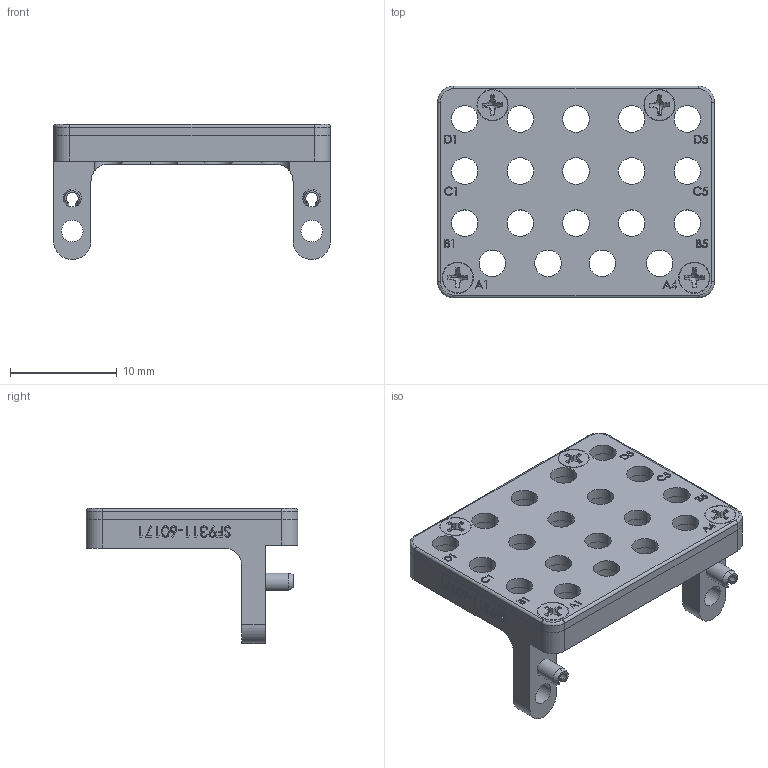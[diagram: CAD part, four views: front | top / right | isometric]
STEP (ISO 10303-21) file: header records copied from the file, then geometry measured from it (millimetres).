
FILE_DESCRIPTION (( 'STEP AP214' ), '1' );
FILE_NAME ('SF9311-60171.STEP', '2021-02-16T19:13:45', ( '' ), ( '' ), 'SwSTEP 2.0', 'SolidWorks 2018', '' );
FILE_SCHEMA (( 'AUTOMOTIVE_DESIGN' ));
Length unit declared in the file: inch
Products named in the file (5): 91771A052_91771A052; 071-93-076; 071-93-075; SF9311-60171; 082-80-006
Assembly tree (8 placements, depth 2):
  SF9311-60171
    071-93-075
    071-93-076
    082-80-006  x2
    91771A052_91771A052  x4
Bounding box: 25.91 x 19.81 x 12.64 mm (x, y, z)
Volume: 1564.1 mm3; surface area: 3055.2 mm2
Topology: 8 solids, 8 shells, 928 faces, 2484 edges, 1642 vertices
Faces by surface type: plane 428, cylinder 236, bspline 198, cone 62, torus 4
Entity records: 39461 total; most frequent: CARTESIAN_POINT 17194, ORIENTED_EDGE 4084, DIRECTION 3155, EDGE_CURVE 2042, VERTEX_POINT 1354, VECTOR 1201, LINE 1201, AXIS2_PLACEMENT_3D 977
